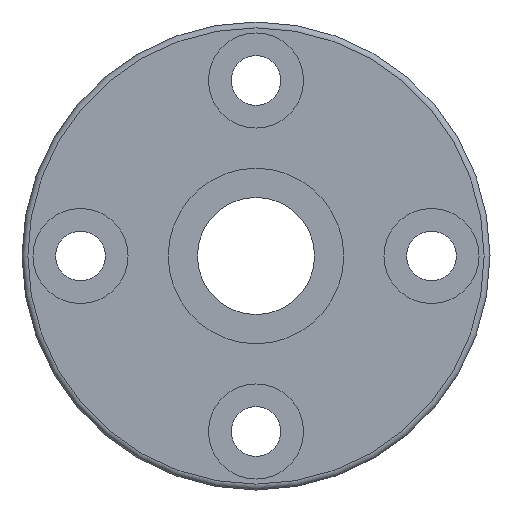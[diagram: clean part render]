
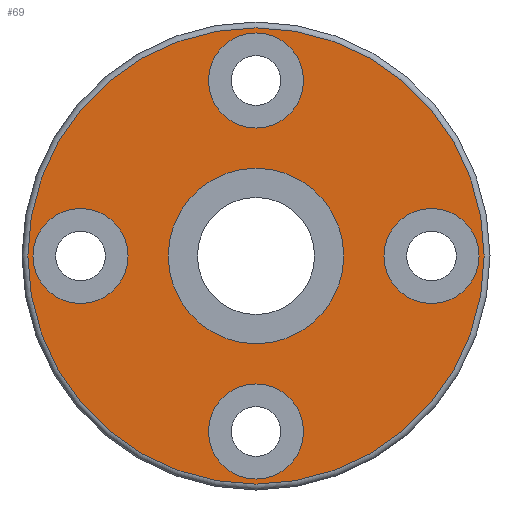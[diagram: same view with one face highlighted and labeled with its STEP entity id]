
A CAD part, left-side view. The second image highlights one B-rep face of the part: STEP entity #69.
In plain terms, the highlighted planar face has unit normal (-1, 0, 0).
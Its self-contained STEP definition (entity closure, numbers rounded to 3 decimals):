
#69 = ADVANCED_FACE( '', ( #162, #163, #164, #165, #166, #167 ), #168, .T. );
#162 = FACE_BOUND( '', #285, .T. );
#163 = FACE_BOUND( '', #286, .T. );
#164 = FACE_BOUND( '', #287, .T. );
#165 = FACE_BOUND( '', #288, .T. );
#166 = FACE_BOUND( '', #289, .T. );
#167 = FACE_OUTER_BOUND( '', #290, .T. );
#168 = PLANE( '', #291 );
#285 = EDGE_LOOP( '', ( #420 ) );
#286 = EDGE_LOOP( '', ( #421 ) );
#287 = EDGE_LOOP( '', ( #422 ) );
#288 = EDGE_LOOP( '', ( #423 ) );
#289 = EDGE_LOOP( '', ( #424 ) );
#290 = EDGE_LOOP( '', ( #425 ) );
#291 = AXIS2_PLACEMENT_3D( '', #426, #427, #428 );
#420 = ORIENTED_EDGE( '', *, *, #559, .T. );
#421 = ORIENTED_EDGE( '', *, *, #560, .T. );
#422 = ORIENTED_EDGE( '', *, *, #561, .T. );
#423 = ORIENTED_EDGE( '', *, *, #562, .T. );
#424 = ORIENTED_EDGE( '', *, *, #563, .F. );
#425 = ORIENTED_EDGE( '', *, *, #556, .T. );
#426 = CARTESIAN_POINT( '', ( 0., 10.9, 0. ) );
#427 = DIRECTION( '', ( -1., 0., 0. ) );
#428 = DIRECTION( '', ( 0., 1., 0. ) );
#556 = EDGE_CURVE( '', #630, #630, #631, .T. );
#559 = EDGE_CURVE( '', #635, #635, #636, .T. );
#560 = EDGE_CURVE( '', #637, #637, #638, .T. );
#561 = EDGE_CURVE( '', #639, #639, #640, .T. );
#562 = EDGE_CURVE( '', #641, #641, #642, .T. );
#563 = EDGE_CURVE( '', #643, #643, #644, .T. );
#630 = VERTEX_POINT( '', #719 );
#631 = CIRCLE( '', #720, 15.6 );
#635 = VERTEX_POINT( '', #724 );
#636 = CIRCLE( '', #725, 3.25 );
#637 = VERTEX_POINT( '', #726 );
#638 = CIRCLE( '', #727, 3.25 );
#639 = VERTEX_POINT( '', #728 );
#640 = CIRCLE( '', #729, 3.25 );
#641 = VERTEX_POINT( '', #730 );
#642 = CIRCLE( '', #731, 3.25 );
#643 = VERTEX_POINT( '', #732 );
#644 = CIRCLE( '', #733, 6. );
#719 = CARTESIAN_POINT( '', ( 0., 15.6, 0. ) );
#720 = AXIS2_PLACEMENT_3D( '', #815, #816, #817 );
#724 = CARTESIAN_POINT( '', ( 0., 0., -15.25 ) );
#725 = AXIS2_PLACEMENT_3D( '', #821, #822, #823 );
#726 = CARTESIAN_POINT( '', ( 0., 0., 15.25 ) );
#727 = AXIS2_PLACEMENT_3D( '', #824, #825, #826 );
#728 = CARTESIAN_POINT( '', ( 0., 15.25, 0. ) );
#729 = AXIS2_PLACEMENT_3D( '', #827, #828, #829 );
#730 = CARTESIAN_POINT( '', ( 0., -15.25, 0. ) );
#731 = AXIS2_PLACEMENT_3D( '', #830, #831, #832 );
#732 = CARTESIAN_POINT( '', ( 0., 6., 0. ) );
#733 = AXIS2_PLACEMENT_3D( '', #833, #834, #835 );
#815 = CARTESIAN_POINT( '', ( 0., 0., 0. ) );
#816 = DIRECTION( '', ( -1., 0., 0. ) );
#817 = DIRECTION( '', ( 0., 0., 1. ) );
#821 = CARTESIAN_POINT( '', ( 0., 0., -12. ) );
#822 = DIRECTION( '', ( 1., 0., 0. ) );
#823 = DIRECTION( '', ( 0., 0., -1. ) );
#824 = CARTESIAN_POINT( '', ( 0., 0., 12. ) );
#825 = DIRECTION( '', ( 1., 0., 0. ) );
#826 = DIRECTION( '', ( 0., 0., 1. ) );
#827 = CARTESIAN_POINT( '', ( 0., 12., 0. ) );
#828 = DIRECTION( '', ( 1., 0., 0. ) );
#829 = DIRECTION( '', ( 0., 1., 0. ) );
#830 = CARTESIAN_POINT( '', ( 0., -12., 0. ) );
#831 = DIRECTION( '', ( 1., 0., 0. ) );
#832 = DIRECTION( '', ( 0., -1., 0. ) );
#833 = CARTESIAN_POINT( '', ( 0., 0., 0. ) );
#834 = DIRECTION( '', ( -1., 0., 0. ) );
#835 = DIRECTION( '', ( 0., 1., 0. ) );
